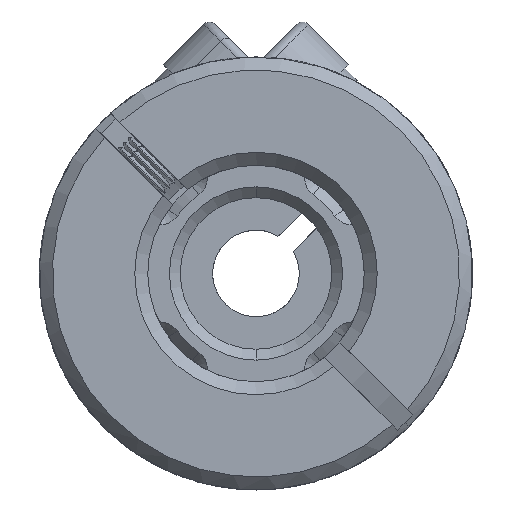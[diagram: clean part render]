
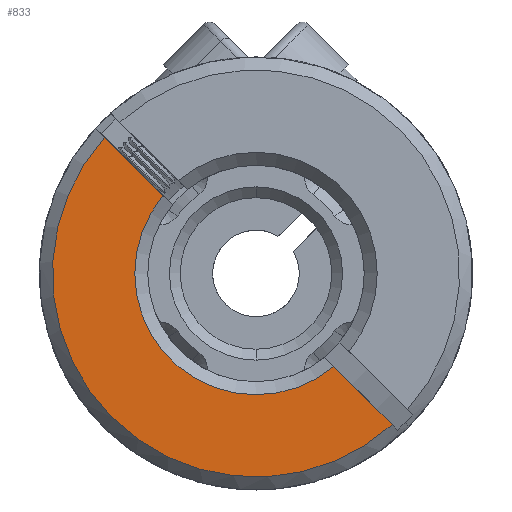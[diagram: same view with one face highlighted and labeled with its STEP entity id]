
A CAD part, front view. The second image highlights one B-rep face of the part: STEP entity #833.
In plain terms, the highlighted planar face has unit normal (0, -1, 0).
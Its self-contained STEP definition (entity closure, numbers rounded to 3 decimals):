
#43 = VERTEX_POINT ( 'NONE', #5387 ) ;
#339 = VERTEX_POINT ( 'NONE', #5735 ) ;
#489 = PLANE ( 'NONE',  #11201 ) ;
#833 = ADVANCED_FACE ( 'NONE', ( #10379 ), #489, .T. ) ;
#1121 = CARTESIAN_POINT ( 'NONE',  ( 0.205, -11.2, -0.912 ) ) ;
#1549 = DIRECTION ( 'NONE',  ( 0., -1., 0. ) ) ;
#1775 = EDGE_LOOP ( 'NONE', ( #12264, #5762, #2231, #6085 ) ) ;
#2145 = VECTOR ( 'NONE', #10003, 1000. ) ;
#2231 = ORIENTED_EDGE ( 'NONE', *, *, #11117, .T. ) ;
#2646 = EDGE_CURVE ( 'NONE', #43, #10771, #13788, .T. ) ;
#3574 = LINE ( 'NONE', #11288, #2145 ) ;
#4068 = CIRCLE ( 'NONE', #14302, 5.6 ) ;
#5091 = DIRECTION ( 'NONE',  ( -0.707, 0., 0.707 ) ) ;
#5136 = CARTESIAN_POINT ( 'NONE',  ( 45.083, -11.2, 25.627 ) ) ;
#5387 = CARTESIAN_POINT ( 'NONE',  ( -6.991, -11.2, 6.284 ) ) ;
#5735 = CARTESIAN_POINT ( 'NONE',  ( 3.59, -11.2, -4.298 ) ) ;
#5762 = ORIENTED_EDGE ( 'NONE', *, *, #2646, .T. ) ;
#5989 = CARTESIAN_POINT ( 'NONE',  ( 0., -11.2, 0. ) ) ;
#6085 = ORIENTED_EDGE ( 'NONE', *, *, #11891, .T. ) ;
#6188 = DIRECTION ( 'NONE',  ( -0.707, 0., 0.707 ) ) ;
#6560 = VECTOR ( 'NONE', #9098, 1000. ) ;
#7059 = AXIS2_PLACEMENT_3D ( 'NONE', #5989, #1549, #7307 ) ;
#7307 = DIRECTION ( 'NONE',  ( -0.707, 0., 0.707 ) ) ;
#7519 = DIRECTION ( 'NONE',  ( 0., 1., 0. ) ) ;
#9098 = DIRECTION ( 'NONE',  ( -0.707, 0., 0.707 ) ) ;
#9776 = CARTESIAN_POINT ( 'NONE',  ( 0., -11.2, 0. ) ) ;
#10003 = DIRECTION ( 'NONE',  ( -0.707, 0., 0.707 ) ) ;
#10289 = VERTEX_POINT ( 'NONE', #12676 ) ;
#10379 = FACE_OUTER_BOUND ( 'NONE', #1775, .T. ) ;
#10771 = VERTEX_POINT ( 'NONE', #12493 ) ;
#10893 = DIRECTION ( 'NONE',  ( 0., -1., 0. ) ) ;
#11117 = EDGE_CURVE ( 'NONE', #10771, #339, #3574, .T. ) ;
#11201 = AXIS2_PLACEMENT_3D ( 'NONE', #5136, #10893, #5091 ) ;
#11288 = CARTESIAN_POINT ( 'NONE',  ( -8.839, -11.2, 8.132 ) ) ;
#11891 = EDGE_CURVE ( 'NONE', #339, #10289, #4068, .T. ) ;
#12264 = ORIENTED_EDGE ( 'NONE', *, *, #12627, .T. ) ;
#12493 = CARTESIAN_POINT ( 'NONE',  ( 6.284, -11.2, -6.991 ) ) ;
#12627 = EDGE_CURVE ( 'NONE', #10289, #43, #12770, .T. ) ;
#12676 = CARTESIAN_POINT ( 'NONE',  ( -4.298, -11.2, 3.59 ) ) ;
#12770 = LINE ( 'NONE', #1121, #6560 ) ;
#13788 = CIRCLE ( 'NONE', #7059, 9.4 ) ;
#14302 = AXIS2_PLACEMENT_3D ( 'NONE', #9776, #7519, #6188 ) ;
